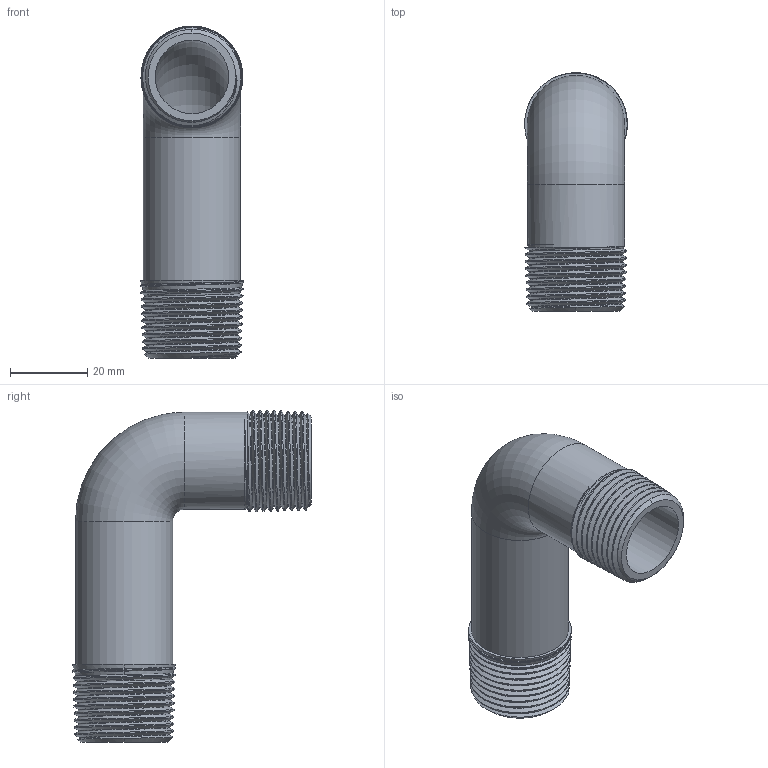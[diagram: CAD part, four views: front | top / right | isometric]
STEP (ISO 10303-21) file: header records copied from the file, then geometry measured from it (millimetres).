
FILE_DESCRIPTION(/* description */ ('Alibre Inc.'),/* implementation_level */ '2;1');
FILE_NAME(/* name */ 'export0',/* time_stamp */ '2016-11-29T12:18:57-05:00',/* author */ (''),/* organization */ (''),/* preprocessor_version */ 'ST-DEVELOPER v14',/* originating_system */ 'Alibre',/* authorisation */ '');
FILE_SCHEMA (('CONFIG_CONTROL_DESIGN'));
Length unit declared in the file: centimetre
Products named in the file (1): ID_1
Bounding box: 26.63 x 61.83 x 85.95 mm (x, y, z)
Volume: 23933.9 mm3; surface area: 18043.7 mm2
Topology: 1 solids, 1 shells, 75 faces, 211 edges, 139 vertices
Faces by surface type: cone 57, bspline 6, plane 5, cylinder 5, torus 2
Full cylindrical faces by diameter (mm): 19.05 x2, 25.146 x2
Entity records: 45169 total; most frequent: CARTESIAN_POINT 43436, ORIENTED_EDGE 406, DIRECTION 231, EDGE_CURVE 203, VERTEX_POINT 137, B_SPLINE_CURVE_WITH_KNOTS 124, AXIS2_PLACEMENT_3D 93, EDGE_LOOP 84
